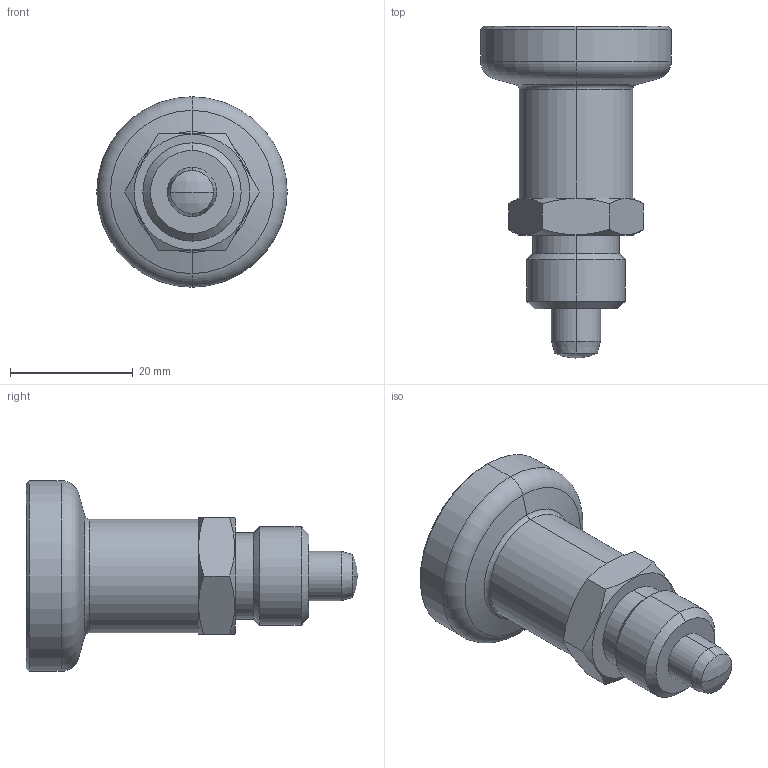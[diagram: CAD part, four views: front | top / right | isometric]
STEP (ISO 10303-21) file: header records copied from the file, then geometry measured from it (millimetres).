
FILE_DESCRIPTION (( 'STEP AP214' ), '1' );
FILE_NAME ('607.1-8-A-NI.step', '2025-04-10T06:30:42', ( '' ), ( '' ), 'SwSTEP 2.0', 'SolidWorks 2022', '' );
FILE_SCHEMA (( 'AUTOMOTIVE_DESIGN' ));
Length unit declared in the file: millimetre
Products named in the file (3): WB607.1_Bedienungsknopf^WB607.1_9.2-8-(NI); 607.1-8-A-NI; WB607.1_Führung_NI^WB607.1_1.1-8
Assembly tree (2 placements, depth 2):
  607.1-8-A-NI
    WB607.1_Führung_NI^WB607.1_1.1-8
    WB607.1_Bedienungsknopf^WB607.1_9.2-8-(NI)
Bounding box: 31 x 54 x 31 mm (x, y, z)
Volume: 14450.1 mm3; surface area: 8536.9 mm2
Topology: 2 solids, 2 shells, 82 faces, 191 edges, 122 vertices
Faces by surface type: plane 31, cylinder 29, cone 14, torus 4, sphere 4
Entity records: 2716 total; most frequent: CARTESIAN_POINT 528, DIRECTION 445, ORIENTED_EDGE 382, EDGE_CURVE 191, AXIS2_PLACEMENT_3D 183, VERTEX_POINT 122, CIRCLE 96, EDGE_LOOP 93
